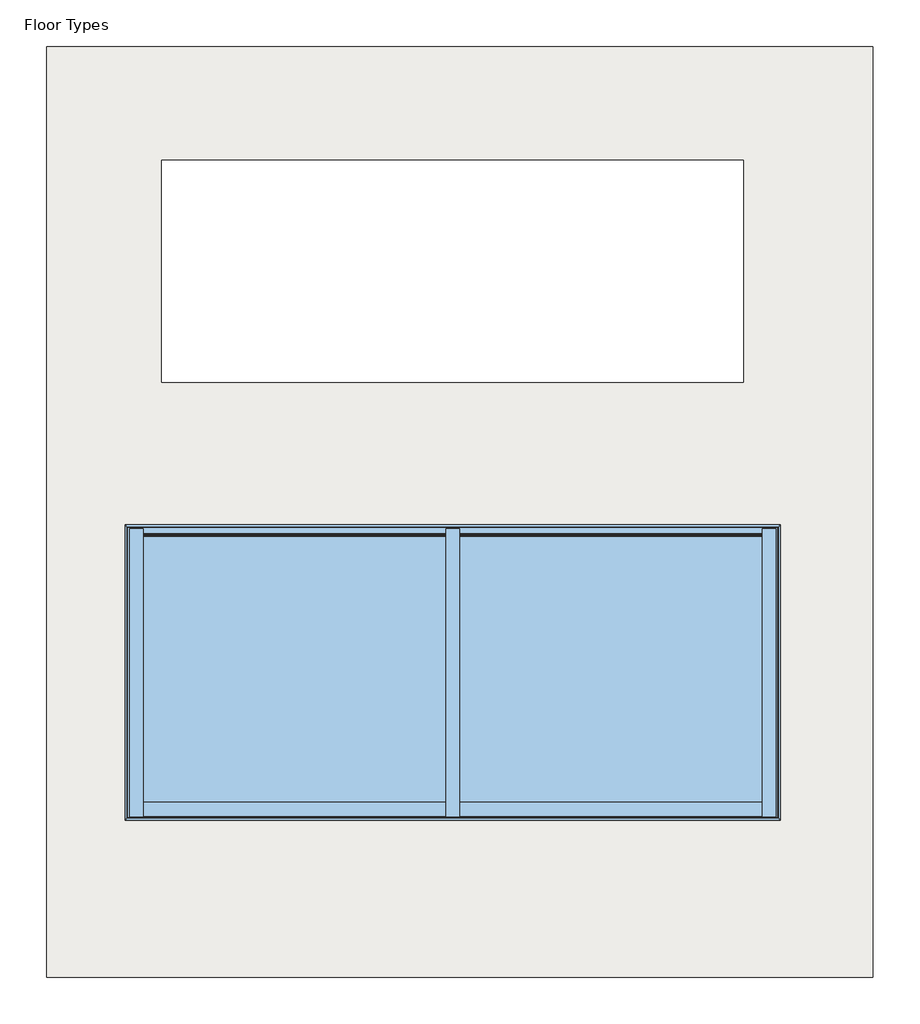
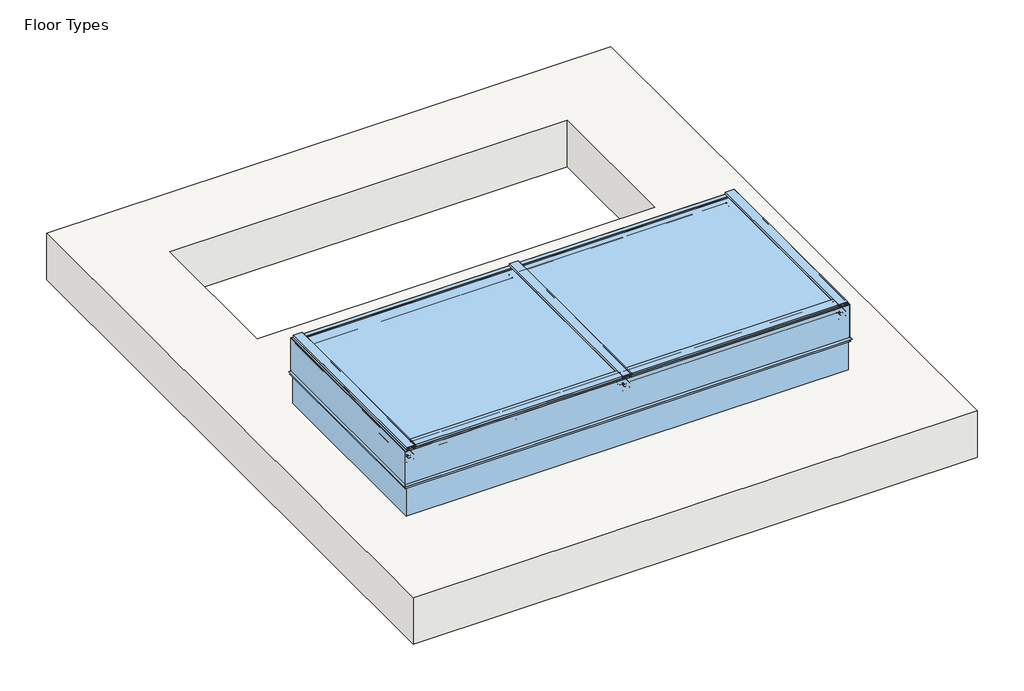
# One storey, incomplete: 1 roof, 1 window.
"""IFC4 building model written with IfcOpenShell, lengths in millimetres."""

from ifc_helpers import new_model, si_unit, origin, origin_with_axes, place, context, project, spatial, polyline, outline, extrude, transform, mapped, element, save
from components import window_19c6d26b, window_b780d06f, window_92d759fe, window_518dc242

model = new_model("IFC4")

# Units and contexts
model_context = context("Model", 3, world=origin())
ifc_project = project(units=[si_unit("LENGTHUNIT", "METRE", prefix="MILLI")], contexts=[model_context])

# Site, building, storey
site = spatial("IfcSite", under=ifc_project)
building = spatial("IfcBuilding", under=site)
storey = spatial("IfcBuildingStorey", under=building, Name="Floor Types", Elevation=0.0)

# Roof
placement = place(None, origin())
element("IfcRoof", 1, ObjectType="Roof 01", at=placement, inside=storey, context=model_context, shape_type="SweptSolid", body=[
    extrude(outline(polyline([(-7003.0851383, 13645.5150713), (-3503.0851383, 13645.5150713), (-3503.0851383, 9705.5150713), (-7003.0851383, 9705.5150713), (-7003.0851383, 13645.5150713)]), holes=[polyline([(-6514.9851383, 12225.5150713), (-4051.1851383, 12225.5150713), (-4051.1851383, 13165.3150713), (-6514.9851383, 13165.3150713), (-6514.9851383, 12225.5150713)]), polyline([(-6514.9851383, 10525.5150713), (-4051.1851383, 10525.5150713), (-4051.1851383, 11465.3150713), (-6514.9851383, 11465.3150713), (-6514.9851383, 10525.5150713)])]), origin_with_axes(), (0.0, 0.0, 1.0), 304.8),
])

# Window
window_shape = window_19c6d26b(model_context)
window_2_shape = window_b780d06f(model_context)
window_3_shape = window_92d759fe(model_context)
window_4_shape = window_518dc242(model_context)
element("IfcWindow", 2, ObjectType="L&A_KlearSky_R19_GM_SingleSlope_LOD200 : KlearSky_Single Slope", at=placement, inside=storey, context=model_context, shape_type="MappedRepresentation", body=[
    mapped(window_shape, transform((-5234.1773808, 11676.2618028, -3657.6), x_axis=(1.0, 0.0, 0.0), y_axis=(0.0, 1.0, 0.0), z_axis=(0.0, 0.0, 1.0))),
    mapped(window_2_shape, transform((-5234.1773808, 11676.2618028, -3657.6), x_axis=(1.0, 0.0, 0.0), y_axis=(0.0, 1.0, 0.0), z_axis=(0.0, 0.0, 1.0))),
    mapped(window_3_shape, transform((-5234.1773808, 11676.2618028, -3657.6), x_axis=(1.0, 0.0, 0.0), y_axis=(0.0, 1.0, 0.0), z_axis=(0.0, 0.0, 1.0))),
    mapped(window_4_shape, transform((-5234.1773808, 11676.2618028, -3657.6), x_axis=(1.0, 0.0, 0.0), y_axis=(0.0, 1.0, 0.0), z_axis=(0.0, 0.0, 1.0))),
])

save(model, "model.ifc")
